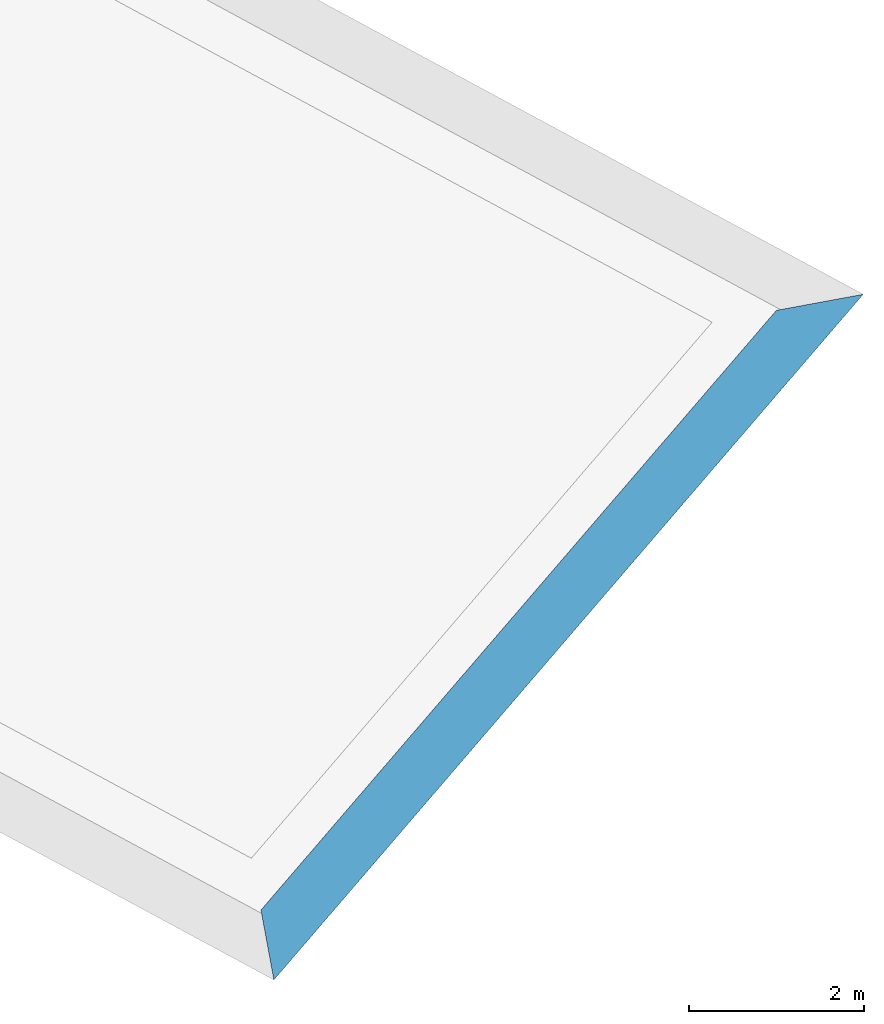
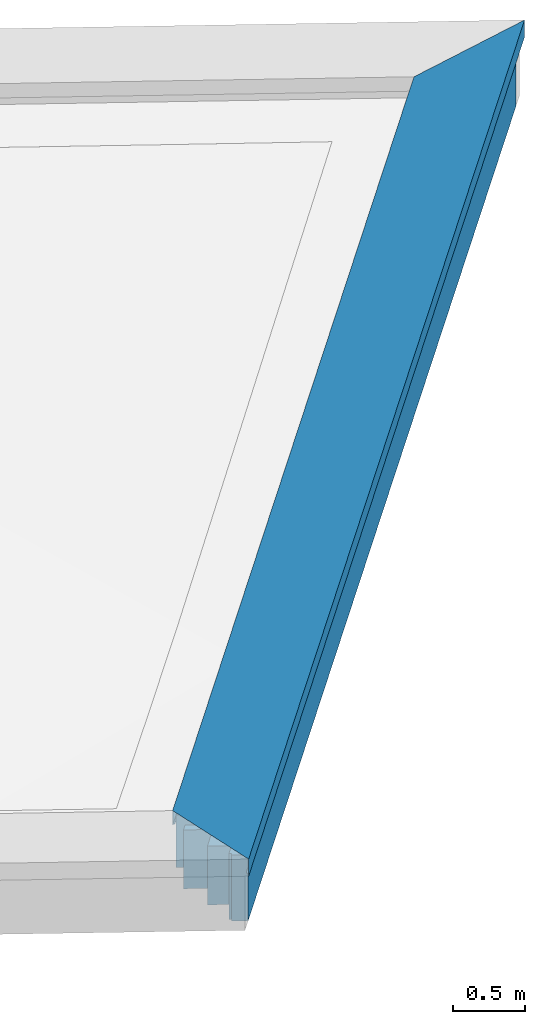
# One storey, part 4 of 5: 1 wall.
"""IFC2X3 building model written with IfcOpenShell, lengths in metres."""

from ifc_helpers import new_model, entity, si_unit, converted_unit, derived_unit, money_unit, direction, frame, origin_with_axes, place, context, subcontext, project, spatial, faceted_brep, material, material_list, type_object, element, save


model = new_model("IFC2X3")

# Units and contexts
model_context = context("Model", 3, precision=1e-05, world=origin_with_axes(), true_north=direction((0.0, 1.0)))
body_context = subcontext(model_context, "Body", "Model", "MODEL_VIEW")
ifc_project = project(units=[si_unit("LENGTHUNIT", "METRE"), si_unit("AREAUNIT", "SQUARE_METRE"), si_unit("VOLUMEUNIT", "CUBIC_METRE"), converted_unit("PLANEANGLEUNIT", "DEGREE", entity("IfcPlaneAngleMeasure", 0.0174532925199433), si_unit("PLANEANGLEUNIT", "RADIAN"), dimensions=[0, 0, 0, 0, 0, 0, 0]), money_unit("EUR"), converted_unit("TIMEUNIT", "Year", entity("IfcTimeMeasure", 31556926.0), si_unit("TIMEUNIT", "SECOND"), dimensions=[0, 0, 1, 0, 0, 0, 0]), si_unit("MASSUNIT", "GRAM", prefix="KILO"), si_unit("THERMODYNAMICTEMPERATUREUNIT", "DEGREE_CELSIUS"), si_unit("LUMINOUSINTENSITYUNIT", "LUMEN"), si_unit("ENERGYUNIT", "JOULE", prefix="MEGA"), derived_unit("THERMALCONDUCTANCEUNIT", [(si_unit("POWERUNIT", "WATT"), 1), (si_unit("LENGTHUNIT", "METRE"), -1), (si_unit("THERMODYNAMICTEMPERATUREUNIT", "KELVIN"), -1)]), derived_unit("SPECIFICHEATCAPACITYUNIT", [(si_unit("ENERGYUNIT", "JOULE"), 1), (si_unit("MASSUNIT", "GRAM", prefix="KILO"), -1), (si_unit("THERMODYNAMICTEMPERATUREUNIT", "KELVIN"), -1)]), derived_unit("MASSDENSITYUNIT", [(si_unit("MASSUNIT", "GRAM", prefix="KILO"), 1), (si_unit("VOLUMEUNIT", "CUBIC_METRE"), -1)])], contexts=[model_context])

# Site, building, storey
site_placement = place(None, frame((-3.949935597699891, 1.740105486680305, 0.0), z_axis=(0.0, 0.0, 1.0), x_axis=(0.8799804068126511, -0.475009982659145, 0.0)))
site = spatial("IfcSite", under=ifc_project, at=site_placement, Name="Gelände", CompositionType="ELEMENT")
building_placement = place(site_placement, origin_with_axes())
building = spatial("IfcBuilding", under=site, at=building_placement, Name="Gebäude", CompositionType="ELEMENT")
storey_placement = place(building_placement, frame((0.0, 0.0, 7.904999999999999), z_axis=(0.0, 0.0, 1.0), x_axis=(1.0, 0.0, 0.0)))
storey = spatial("IfcBuildingStorey", under=building, at=storey_placement, Name="Dachaufsicht", CompositionType="ELEMENT", Elevation=7.905)

# Wall
ifc_material_1 = material(Name="_SIWH - Dämmung, hart Mineralwolle")
ifc_material_2 = material(Name="_SIWH - Beton, Stahlbeton")
ifc_material_3 = material(Name="_SIWH - Holz, Bauholz")
ifc_material_4 = material(Name="_SIWH - Dämmung, weich Mineralwolle")
ifc_material_5 = material(Name="_SIWH - Luftschicht vertikal")
ifc_material_6 = material(Name="_SIWH - MW Vormauerziegel")
ifc_material_7 = material(Name="_SIWH - Metall, Aluminium")
ifc_material_list = material_list([ifc_material_1, ifc_material_2, ifc_material_3, ifc_material_4, ifc_material_5, ifc_material_6, ifc_material_7])
wall_type = type_object("IfcWallType", Name="_SIWH - Attika 1.OG 635 x 625", PredefinedType="NOTDEFINED")
wall_placement = place(storey_placement, frame((25.91612514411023, 1.424987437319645, -0.1909999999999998), z_axis=(0.0, 0.0, 1.0), x_axis=(0.2133784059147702, 0.9769696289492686, 0.0)))
element("IfcWall", 1, at=wall_placement, inside=storey, type_object=wall_type, material=ifc_material_list, Name="A-Wand030", context=body_context, shape_type="Brep", body=[
    faceted_brep([(9.428360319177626, -0.1799999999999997, 0.5014142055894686), (9.428360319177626, -0.1799999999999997, 0.5020656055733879), (9.428360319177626, -0.1799999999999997, 0.5599999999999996), (0.3054425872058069, -0.1799999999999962, 0.5599999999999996), (0.3054425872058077, -0.1799999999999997, 0.5020656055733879), (0.3054425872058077, -0.1799999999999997, 0.5014142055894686), (0.3054425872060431, -0.1800000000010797, 0.4999999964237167), (9.42836031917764, -0.1800000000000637, 0.4999999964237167), (9.332260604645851, 0.2600000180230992, 0.5014142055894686), (9.332260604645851, 0.2600000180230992, 0.5020656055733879), (9.332260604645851, 0.2600000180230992, 0.5599999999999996), (0.2093428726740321, 0.2600000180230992, 0.5599999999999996), (0.209342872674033, 0.2600000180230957, 0.5020656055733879), (0.209342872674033, 0.2600000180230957, 0.5014142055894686), (0.209342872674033, 0.2600000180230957, 0.4999999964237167), (0.2224473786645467, 0.2000000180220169, 0.4999999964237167), (9.345365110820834, 0.2000000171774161, 0.4999999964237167), (9.332260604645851, 0.2600000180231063, 0.4999999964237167), (9.332260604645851, 0.2600000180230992, 0.4857034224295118), (9.332260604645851, 0.2600000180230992, 0.4848284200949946), (9.332260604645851, 0.2600000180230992, 0.4808750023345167), (9.332260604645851, 0.2600000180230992, 0.4799999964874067), (9.332260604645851, 0.2600000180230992, 0.1399999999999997), (0.2093428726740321, 0.2600000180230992, 0.1399999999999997), (0.209342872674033, 0.2600000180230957, 0.4799999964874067), (0.209342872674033, 0.2600000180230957, 0.4808750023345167), (0.209342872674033, 0.2600000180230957, 0.4848284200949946), (0.209342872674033, 0.2600000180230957, 0.4857034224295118), (0.2224473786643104, 0.2000000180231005, 0.4857034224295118), (0.2224473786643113, 0.200000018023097, 0.4848284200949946), (0.2224473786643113, 0.200000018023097, 0.4808750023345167), (0.2224473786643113, 0.200000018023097, 0.4799999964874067), (0.2224473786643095, 0.2000000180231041, 0.1399999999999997), (9.345365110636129, 0.2000000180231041, 0.1399999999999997), (9.345365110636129, 0.2000000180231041, 0.4799999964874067), (9.345365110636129, 0.2000000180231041, 0.4808750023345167), (9.345365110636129, 0.2000000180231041, 0.4848284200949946), (9.345365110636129, 0.2000000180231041, 0.4857034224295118)], [[[0, 1, 2, 3, 4, 5, 6, 7]], [[8, 9, 1, 0]], [[9, 10, 2, 1]], [[3, 2, 10, 11]], [[11, 12, 4, 3]], [[13, 5, 4, 12]], [[6, 5, 13, 14, 15]], [[15, 16, 7, 6]], [[17, 8, 0, 7, 16]], [[11, 10, 9, 8, 17, 18, 19, 20, 21, 22, 23, 24, 25, 26, 27, 14, 13, 12]], [[15, 14, 27, 28]], [[16, 15, 28, 29, 30, 31, 32, 33, 34, 35, 36, 37]], [[18, 17, 16, 37]], [[37, 36, 19, 18]], [[20, 19, 36, 35]], [[35, 34, 21, 20]], [[22, 21, 34, 33]], [[33, 32, 23, 22]], [[31, 24, 23, 32]], [[24, 31, 30, 25]], [[25, 30, 29, 26]], [[28, 27, 26, 29]]]),
    faceted_brep([(9.450461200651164, 2.525876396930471e-09, 0.4848284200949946), (9.450461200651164, 2.525876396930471e-09, 0.4857034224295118), (9.45046120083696, 1.675189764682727e-09, 0.4999999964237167), (0.2047146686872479, 2.525876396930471e-09, 0.4999999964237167), (0.2047146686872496, 2.525869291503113e-09, 0.4857034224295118), (0.2047146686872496, 2.525869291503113e-09, 0.4848284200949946), (0.2047146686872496, 2.525869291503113e-09, 0.4808750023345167), (0.2047146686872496, 2.525869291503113e-09, 0.4799999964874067), (0.2047146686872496, 2.525869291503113e-09, 0.1399999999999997), (0.2047146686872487, 2.525872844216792e-09, 0.0), (9.450461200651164, 2.525876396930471e-09, 0.0), (9.450461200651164, 2.525876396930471e-09, 0.1399999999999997), (9.450461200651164, 2.525876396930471e-09, 0.4799999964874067), (9.450461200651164, 2.525876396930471e-09, 0.4808750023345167), (9.406779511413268, 0.200000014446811, 0.4848284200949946), (9.406779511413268, 0.200000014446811, 0.4857034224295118), (9.406779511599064, 0.2000000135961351, 0.4999999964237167), (0.1610329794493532, 0.2000000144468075, 0.4999999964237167), (0.1610329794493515, 0.2000000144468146, 0.4857034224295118), (0.1610329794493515, 0.2000000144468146, 0.4848284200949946), (0.1610329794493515, 0.2000000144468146, 0.4808750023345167), (0.1610329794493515, 0.2000000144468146, 0.4799999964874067), (0.1610329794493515, 0.2000000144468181, 0.1399999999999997), (0.1610329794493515, 0.2000000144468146, 0.0), (9.406779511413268, 0.200000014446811, 0.0), (9.406779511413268, 0.2000000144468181, 0.1399999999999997), (9.406779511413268, 0.200000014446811, 0.4799999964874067), (9.406779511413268, 0.200000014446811, 0.4808750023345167)], [[[0, 1, 2, 3, 4, 5, 6, 7, 8, 9, 10, 11, 12, 13]], [[14, 15, 1, 0]], [[15, 16, 2, 1]], [[3, 2, 16, 17]], [[18, 4, 3, 17]], [[5, 4, 18, 19]], [[6, 5, 19, 20]], [[20, 21, 7, 6]], [[21, 22, 8, 7]], [[9, 8, 22, 23]], [[23, 24, 10, 9]], [[24, 25, 11, 10]], [[25, 26, 12, 11]], [[26, 27, 13, 12]], [[27, 14, 0, 13]], [[17, 16, 15, 14, 27, 26, 25, 22, 21, 20, 19, 18]], [[22, 25, 24, 23]]]),
    faceted_brep([(9.457845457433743, -0.3149999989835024, 0.5599999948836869), (9.457845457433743, -0.3149999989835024, 0.5849999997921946), (0.334927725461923, -0.3149999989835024, 0.5849999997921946), (0.334927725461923, -0.3149999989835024, 0.5599999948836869), (9.332260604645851, 0.2600000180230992, 0.5849999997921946), (9.332260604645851, 0.2600000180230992, 0.5599999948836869), (0.209342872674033, 0.2600000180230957, 0.5849999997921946), (0.2093428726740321, 0.2600000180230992, 0.5599999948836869)], [[[0, 1, 2, 3]], [[4, 1, 0, 5]], [[1, 4, 6, 2]], [[3, 2, 6, 7]], [[5, 0, 3, 7]], [[4, 5, 7, 6]]]),
    faceted_brep([(9.694489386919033, -0.1799999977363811, 0.4848284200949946), (9.694489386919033, -0.1799999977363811, 0.4857034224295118), (9.694489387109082, -0.1799999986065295, 0.4999999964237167), (0.03931351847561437, -0.1799999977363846, 0.4999999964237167), (0.03931351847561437, -0.1799999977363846, 0.4857034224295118), (0.03931351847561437, -0.1799999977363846, 0.4848284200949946), (0.03931351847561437, -0.1799999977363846, 0.4808750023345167), (0.03931351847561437, -0.1799999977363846, 0.4799999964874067), (0.03931351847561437, -0.1799999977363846, 0.1399999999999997), (0.0393135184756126, -0.1799999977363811, 0.0), (9.694489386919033, -0.1799999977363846, 0.0), (9.694489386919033, -0.1799999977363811, 0.1399999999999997), (9.694489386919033, -0.1799999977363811, 0.4799999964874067), (9.694489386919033, -0.1799999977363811, 0.4808750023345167), (9.65517586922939, 9.761507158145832e-10, 0.4848284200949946), (9.65517586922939, 9.761507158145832e-10, 0.4857034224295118), (9.655175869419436, 1.060094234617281e-10, 0.4999999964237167), (7.859703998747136e-10, 9.76154268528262e-10, 0.4999999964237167), (7.859703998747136e-10, 9.761507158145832e-10, 0.4857034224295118), (7.859703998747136e-10, 9.761507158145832e-10, 0.4848284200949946), (7.859703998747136e-10, 9.761507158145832e-10, 0.4808750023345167), (7.859703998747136e-10, 9.761507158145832e-10, 0.4799999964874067), (7.859703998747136e-10, 9.761507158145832e-10, 0.1399999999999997), (7.859703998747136e-10, 9.76154268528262e-10, 0.0), (9.65517586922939, 9.761507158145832e-10, 0.0), (9.65517586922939, 9.761507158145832e-10, 0.1399999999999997), (9.65517586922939, 9.761507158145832e-10, 0.4799999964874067), (9.65517586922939, 9.761507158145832e-10, 0.4808750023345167)], [[[0, 1, 2, 3, 4, 5, 6, 7, 8, 9, 10, 11, 12, 13]], [[14, 15, 1, 0]], [[15, 16, 2, 1]], [[3, 2, 16, 17]], [[4, 3, 17, 18]], [[4, 18, 19, 5]], [[20, 6, 5, 19]], [[21, 7, 6, 20]], [[7, 21, 22, 8]], [[8, 22, 23, 9]], [[10, 9, 23, 24]], [[24, 25, 11, 10]], [[12, 11, 25, 26]], [[26, 27, 13, 12]], [[0, 13, 27, 14]], [[17, 16, 15, 14, 27, 26, 25, 24, 23, 22, 21, 20, 19, 18]]]),
    faceted_brep([(9.88310074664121, -0.2000000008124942, 0.5014142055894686), (9.88310074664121, -0.2000000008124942, 0.5020656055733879), (9.883100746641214, -0.2000000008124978, 0.5599999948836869), (-0.1405615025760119, -0.2000000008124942, 0.5599999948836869), (-0.1405615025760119, -0.2000000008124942, 0.5020656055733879), (-0.1405615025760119, -0.2000000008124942, 0.5014142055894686), (-0.1405615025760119, -0.2000000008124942, 0.4999999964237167), (-0.1405615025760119, -0.2000000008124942, 0.4857034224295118), (-0.1405615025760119, -0.2000000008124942, 0.4848284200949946), (-0.1405615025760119, -0.2000000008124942, 0.4808750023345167), (-0.1405615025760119, -0.2000000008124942, 0.4799999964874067), (-0.1405615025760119, -0.2000000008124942, 0.1399999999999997), (-0.1405615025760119, -0.2000000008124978, 0.0), (9.883100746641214, -0.2000000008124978, 0.0), (9.88310074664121, -0.2000000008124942, 0.1399999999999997), (9.88310074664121, -0.2000000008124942, 0.4799999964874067), (9.88310074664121, -0.2000000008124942, 0.4808750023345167), (9.88310074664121, -0.2000000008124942, 0.4848284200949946), (9.88310074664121, -0.2000000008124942, 0.4857034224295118), (9.88310074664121, -0.2000000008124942, 0.4999999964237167), (9.878732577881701, -0.1800000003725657, 0.5014142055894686), (9.878732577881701, -0.1800000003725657, 0.5020656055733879), (9.878732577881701, -0.1800000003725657, 0.5599999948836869), (-0.1449296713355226, -0.1800000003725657, 0.5599999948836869), (-0.1449296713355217, -0.1800000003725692, 0.5020656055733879), (-0.1449296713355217, -0.1800000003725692, 0.5014142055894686), (-0.1449296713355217, -0.1800000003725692, 0.4999999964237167), (-0.1449296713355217, -0.1800000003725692, 0.4857034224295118), (-0.1449296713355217, -0.1800000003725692, 0.4848284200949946), (-0.1449296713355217, -0.1800000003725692, 0.4808750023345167), (-0.1449296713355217, -0.1800000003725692, 0.4799999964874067), (-0.1449296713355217, -0.1800000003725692, 0.1399999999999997), (-0.1449296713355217, -0.1800000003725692, 0.0), (9.878732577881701, -0.1800000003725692, 0.0), (9.878732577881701, -0.1800000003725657, 0.1399999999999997), (9.878732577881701, -0.1800000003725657, 0.4799999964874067), (9.878732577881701, -0.1800000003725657, 0.4808750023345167), (9.878732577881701, -0.1800000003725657, 0.4848284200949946), (9.878732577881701, -0.1800000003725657, 0.4857034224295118), (9.878732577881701, -0.1800000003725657, 0.4999999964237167)], [[[0, 1, 2, 3, 4, 5, 6, 7, 8, 9, 10, 11, 12, 13, 14, 15, 16, 17, 18, 19]], [[20, 21, 1, 0]], [[21, 22, 2, 1]], [[3, 2, 22, 23]], [[24, 4, 3, 23]], [[5, 4, 24, 25]], [[6, 5, 25, 26]], [[7, 6, 26, 27]], [[8, 7, 27, 28]], [[9, 8, 28, 29]], [[10, 9, 29, 30]], [[11, 10, 30, 31]], [[12, 11, 31, 32]], [[32, 33, 13, 12]], [[33, 34, 14, 13]], [[34, 35, 15, 14]], [[35, 36, 16, 15]], [[36, 37, 17, 16]], [[37, 38, 18, 17]], [[38, 39, 19, 18]], [[39, 20, 0, 19]], [[23, 22, 21, 20, 39, 38, 37, 36, 35, 34, 33, 32, 31, 30, 29, 28, 27, 26, 25, 24]]]),
    faceted_brep([(9.928689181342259, -0.3150000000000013, 0.5014142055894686), (9.928689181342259, -0.3150000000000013, 0.5020656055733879), (9.928689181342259, -0.3149999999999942, 0.5599999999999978), (-0.1359159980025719, -0.3150000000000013, 0.5599999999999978), (-0.135915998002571, -0.3150000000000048, 0.5020656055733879), (-0.135915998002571, -0.3150000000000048, 0.5014142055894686), (-0.135915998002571, -0.3150000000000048, 0.4999999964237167), (-0.135915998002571, -0.3150000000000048, 0.4857034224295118), (-0.135915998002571, -0.3150000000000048, 0.4848284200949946), (-0.1359159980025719, -0.3150000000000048, 0.4808750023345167), (-0.1359159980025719, -0.3150000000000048, 0.4799999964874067), (-0.1359159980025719, -0.3150000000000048, 0.1399999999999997), (-0.1359159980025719, -0.3150000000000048, 0.0), (9.928689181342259, -0.3150000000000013, 0.0), (9.928689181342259, -0.3150000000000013, 0.1399999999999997), (9.928689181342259, -0.3150000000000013, 0.4799999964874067), (9.928689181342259, -0.3150000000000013, 0.4808750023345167), (9.928689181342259, -0.3150000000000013, 0.4848284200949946), (9.928689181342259, -0.3150000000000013, 0.4857034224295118), (9.928689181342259, -0.3150000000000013, 0.4999999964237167), (9.903572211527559, -0.1999999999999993, 0.5014142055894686), (9.903572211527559, -0.1999999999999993, 0.5020656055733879), (9.903572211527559, -0.1999999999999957, 0.5599999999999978), (-0.1610329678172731, -0.2000000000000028, 0.5599999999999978), (-0.1610329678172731, -0.1999999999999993, 0.5020656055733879), (-0.1610329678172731, -0.1999999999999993, 0.5014142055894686), (-0.1610329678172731, -0.1999999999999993, 0.4999999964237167), (-0.1610329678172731, -0.1999999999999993, 0.4857034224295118), (-0.1610329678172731, -0.1999999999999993, 0.4848284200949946), (-0.1610329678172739, -0.1999999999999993, 0.4808750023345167), (-0.1610329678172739, -0.1999999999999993, 0.4799999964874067), (-0.1610329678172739, -0.1999999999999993, 0.1399999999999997), (-0.1610329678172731, -0.2000000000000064, 0.0), (9.903572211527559, -0.2000000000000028, 0.0), (9.903572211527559, -0.1999999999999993, 0.1399999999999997), (9.903572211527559, -0.1999999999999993, 0.4799999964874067), (9.903572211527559, -0.1999999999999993, 0.4808750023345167), (9.903572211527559, -0.1999999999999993, 0.4848284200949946), (9.903572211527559, -0.1999999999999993, 0.4857034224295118), (9.903572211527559, -0.1999999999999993, 0.4999999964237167)], [[[0, 1, 2, 3, 4, 5, 6, 7, 8, 9, 10, 11, 12, 13, 14, 15, 16, 17, 18, 19]], [[20, 21, 1, 0]], [[21, 22, 2, 1]], [[3, 2, 22, 23]], [[24, 4, 3, 23]], [[5, 4, 24, 25]], [[6, 5, 25, 26]], [[7, 6, 26, 27]], [[8, 7, 27, 28]], [[9, 8, 28, 29]], [[10, 9, 29, 30]], [[11, 10, 30, 31]], [[12, 11, 31, 32]], [[32, 33, 13, 12]], [[33, 34, 14, 13]], [[34, 35, 15, 14]], [[35, 36, 16, 15]], [[36, 37, 17, 16]], [[37, 38, 18, 17]], [[38, 39, 19, 18]], [[39, 20, 0, 19]], [[23, 22, 21, 20, 39, 38, 37, 36, 35, 34, 33, 32, 31, 30, 29, 28, 27, 26, 25, 24]]]),
    faceted_brep([(-0.2770773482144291, -0.3441249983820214, 0.4808750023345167), (-0.2768862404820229, -0.3450000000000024, 0.4808750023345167), (-0.27283962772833, -0.3449999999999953, 0.484828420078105), (-0.2732764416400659, -0.3430000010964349, 0.484828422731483), (-0.2738941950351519, -0.3401715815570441, 0.484828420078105), (-0.2777818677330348, -0.3449999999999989, 0.4800000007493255), (10.083659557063, -0.3449999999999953, 0.4800000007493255), (10.08276392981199, -0.3449999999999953, 0.4808750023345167), (10.07871731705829, -0.3449999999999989, 0.484828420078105), (10.08161241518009, -0.3450000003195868, 0.4848284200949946), (10.08161241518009, -0.3450000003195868, 0.4857034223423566), (10.08161241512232, -0.3450000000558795, 0.4999999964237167), (10.08161241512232, -0.3450000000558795, 0.5014142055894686), (10.08161241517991, -0.3450000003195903, 0.50206560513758), (10.08161241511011, -0.3449999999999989, 0.5599999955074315), (10.08161241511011, -0.3449999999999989, 0.5849999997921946), (10.08161241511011, -0.3449999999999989, 0.6229287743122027), (10.02308674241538, -0.3449999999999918, 0.6229287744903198), (10.083659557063, -0.3449999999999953, 0.6249999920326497), (-0.2777818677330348, -0.3449999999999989, 0.6249999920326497), (-0.2172090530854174, -0.3449999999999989, 0.6229287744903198), (-0.2757347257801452, -0.3449999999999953, 0.6229287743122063), (-0.2757347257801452, -0.3449999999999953, 0.5849999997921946), (-0.2757347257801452, -0.3449999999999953, 0.5599999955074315), (-0.2757347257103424, -0.3450000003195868, 0.50206560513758), (-0.275734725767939, -0.3450000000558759, 0.5014142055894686), (-0.275734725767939, -0.3450000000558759, 0.4999999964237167), (-0.2757347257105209, -0.3450000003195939, 0.4857034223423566), (-0.2757347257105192, -0.3450000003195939, 0.4848284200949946), (-0.2761715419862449, -0.3430000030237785, 0.4848284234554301), (-0.2731896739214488, -0.3392965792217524, 0.4857034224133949), (-0.272571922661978, -0.3421250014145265, 0.4857034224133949), (-0.261678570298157, -0.3250000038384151, 0.4999999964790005), (10.05881992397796, -0.3250000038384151, 0.4999999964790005), (10.07657601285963, -0.3392965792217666, 0.4857034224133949), (10.07766274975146, -0.3401715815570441, 0.4848284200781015), (10.08257282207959, -0.3441249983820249, 0.4808750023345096), (10.07828049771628, -0.3430000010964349, 0.4848284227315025), (10.08117559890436, -0.343000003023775, 0.4848284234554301), (10.08117559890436, -0.343000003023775, 0.4857034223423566), (10.08117559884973, -0.3430000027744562, 0.4999999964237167), (10.08117559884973, -0.3430000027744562, 0.5014142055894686), (10.08117559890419, -0.343000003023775, 0.50206560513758), (10.08117559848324, -0.3430000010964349, 0.5599999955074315), (10.08117559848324, -0.3430000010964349, 0.5849999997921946), (10.08117559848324, -0.3430000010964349, 0.6229287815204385), (10.02264990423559, -0.3429999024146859, 0.6229287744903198), (10.0101618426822, -0.2858223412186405, 0.6229287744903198), (-0.2301339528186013, -0.2858223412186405, 0.6229287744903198), (9.29500117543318, 0.2899999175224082, 0.6027750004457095), (0.2334978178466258, 0.2900000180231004, 0.6027749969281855), (-0.2176458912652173, -0.3429999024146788, 0.6229287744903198), (-0.2761715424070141, -0.3430000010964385, 0.6229287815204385), (-0.2761715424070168, -0.3430000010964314, 0.5849999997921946), (-0.2761715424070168, -0.3430000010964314, 0.5599999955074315), (-0.2761715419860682, -0.3430000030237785, 0.50206560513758), (-0.2761715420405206, -0.3430000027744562, 0.5014142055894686), (-0.2761715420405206, -0.3430000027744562, 0.4999999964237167), (-0.2761715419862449, -0.3430000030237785, 0.4857034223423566), (10.07719376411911, -0.3421250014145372, 0.4857034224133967), (10.05943767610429, -0.3278284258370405, 0.5000000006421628), (10.06057635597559, -0.3264142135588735, 0.5014142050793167), (-0.2628172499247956, -0.3264142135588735, 0.5014142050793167), (-0.2610608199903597, -0.3278284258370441, 0.5000000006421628), (9.307489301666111, 0.232822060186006, 0.6027750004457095), (0.2334978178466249, 0.2900000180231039, 0.48087500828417), (0.2334978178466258, 0.2900000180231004, 0.4848284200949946), (0.2334978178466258, 0.2900000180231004, 0.4857034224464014), (0.2334978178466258, 0.2900000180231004, 0.4999999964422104), (0.2334978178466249, 0.2900000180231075, 0.5014142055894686), (0.2334978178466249, 0.2900000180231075, 0.5020656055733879), (0.2334978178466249, 0.2900000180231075, 0.5599999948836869), (0.2334978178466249, 0.2900000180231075, 0.5849999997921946), (9.295001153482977, 0.2900000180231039, 0.5849999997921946), (9.295001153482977, 0.2900000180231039, 0.5599999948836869), (9.295001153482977, 0.2900000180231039, 0.5020656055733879), (9.295001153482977, 0.2900000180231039, 0.5014142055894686), (9.295001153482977, 0.2900000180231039, 0.4999999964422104), (9.295001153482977, 0.2900000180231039, 0.4857034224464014), (9.295001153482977, 0.2900000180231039, 0.4848284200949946), (9.295001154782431, 0.2900000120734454, 0.4808750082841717), (0.2459859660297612, 0.232822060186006, 0.6027750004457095), (0.2339346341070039, 0.2880000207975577, 0.6008437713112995), (9.295437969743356, 0.2880000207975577, 0.6008437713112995), (9.295437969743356, 0.2880000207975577, 0.5849999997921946), (0.2343612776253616, 0.2860466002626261, 0.4848284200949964), (0.2345523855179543, 0.2851715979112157, 0.4857034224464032), (0.2339346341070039, 0.2880000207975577, 0.4857034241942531), (0.233934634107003, 0.2880000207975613, 0.4999999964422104), (0.2339346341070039, 0.2880000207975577, 0.5014142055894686), (0.2339346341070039, 0.2880000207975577, 0.5020656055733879), (0.2339346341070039, 0.2880000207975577, 0.5599999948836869), (0.2339346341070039, 0.2880000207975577, 0.5849999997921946), (9.295437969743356, 0.2880000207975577, 0.5599999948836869), (9.295437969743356, 0.2880000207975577, 0.5020656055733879), (9.295437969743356, 0.2880000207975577, 0.5014142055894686), (9.295437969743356, 0.2880000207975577, 0.4999999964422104), (9.295437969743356, 0.2880000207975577, 0.4857034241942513), (9.296055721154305, 0.2851715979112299, 0.4857034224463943), (9.295864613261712, 0.2860466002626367, 0.4848284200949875), (9.29810286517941, 0.2851715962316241, 0.485703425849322), (9.315858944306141, 0.2708750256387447, 0.4999999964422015), (9.31666796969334, 0.2702236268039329, 0.5006513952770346), (0.2204696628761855, 0.2702236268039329, 0.5006513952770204), (0.2209941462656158, 0.2708750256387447, 0.4999999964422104), (0.2325052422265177, 0.2851715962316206, 0.4857034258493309), (0.2318874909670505, 0.2880000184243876, 0.4857034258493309), (9.29748511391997, 0.2880000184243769, 0.4857034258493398), (9.3152411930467, 0.2737034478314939, 0.4999999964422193), (9.316997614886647, 0.2722892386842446, 0.5014142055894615), (9.317282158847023, 0.2709864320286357, 0.5014142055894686), (0.2195222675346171, 0.2709864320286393, 0.5014142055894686), (9.31780664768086, 0.2716378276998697, 0.5020656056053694), (0.2187132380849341, 0.2716378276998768, 0.5020656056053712), (0.2192377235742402, 0.2722892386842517, 0.5014142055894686), (0.2203763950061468, 0.2737034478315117, 0.4999999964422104)], [[[0, 1, 2, 3, 4]], [[0, 5, 1]], [[1, 5, 6, 7, 8, 9, 10, 11, 12, 13, 14, 15, 16, 17, 18, 19, 20, 21, 22, 23, 24, 25, 26, 27, 28, 2]], [[28, 29, 3, 2]], [[30, 4, 3, 31]], [[5, 0, 4, 30, 32, 33, 34, 35, 36, 6]], [[36, 7, 6]], [[35, 37, 8, 7, 36]], [[8, 37, 38, 9]], [[38, 39, 10, 9]], [[10, 39, 40, 11]], [[11, 40, 41, 12]], [[12, 41, 42, 13]], [[43, 14, 13, 42]], [[14, 43, 44, 15]], [[15, 44, 45, 16]], [[46, 17, 16, 45]], [[46, 47, 18, 17]], [[48, 19, 18, 47, 49, 50]], [[19, 48, 51, 20]], [[52, 21, 20, 51]], [[53, 22, 21, 52]], [[54, 23, 22, 53]], [[23, 54, 55, 24]], [[56, 25, 24, 55]], [[57, 26, 25, 56]], [[58, 27, 26, 57]], [[58, 29, 28, 27]], [[29, 58, 57, 56, 55, 54, 53, 52, 51, 46, 45, 44, 43, 42, 41, 40, 39, 38, 37, 3]], [[31, 3, 37, 59, 60, 61, 62, 63]], [[63, 32, 30, 31]], [[32, 62, 61, 33]], [[59, 34, 33, 60]], [[35, 34, 59, 37]], [[64, 49, 47, 46]], [[65, 66, 67, 68, 69, 70, 71, 72, 50, 49, 73, 74, 75, 76, 77, 78, 79, 80]], [[48, 50, 81, 51]], [[81, 82, 83, 64, 46, 51]], [[60, 33, 61]], [[32, 63, 62]], [[84, 73, 49, 64, 83]], [[66, 65, 85]], [[67, 66, 85, 86, 87]], [[67, 87, 88, 68]], [[69, 68, 88, 89]], [[69, 89, 90, 70]], [[71, 70, 90, 91]], [[72, 71, 91, 92]], [[72, 92, 82, 81, 50]], [[74, 73, 84, 93]], [[75, 74, 93, 94]], [[76, 75, 94, 95]], [[77, 76, 95, 96]], [[97, 78, 77, 96]], [[79, 78, 97, 98, 99]], [[80, 79, 99]], [[85, 65, 80, 99, 98, 100, 101, 102, 103, 104, 105, 86]], [[88, 87, 97, 96, 95, 94, 93, 84, 83, 82, 92, 91, 90, 89]], [[105, 106, 87, 86]], [[98, 97, 107, 100]], [[100, 107, 108, 101]], [[101, 108, 109, 110, 102]], [[111, 103, 102, 110, 112, 113]], [[114, 115, 104, 103, 111]], [[106, 105, 104, 115]], [[106, 115, 114, 113, 112, 109, 108, 107, 97, 87]], [[109, 112, 110]], [[114, 111, 113]]]),
])

save(model, "model.ifc")
